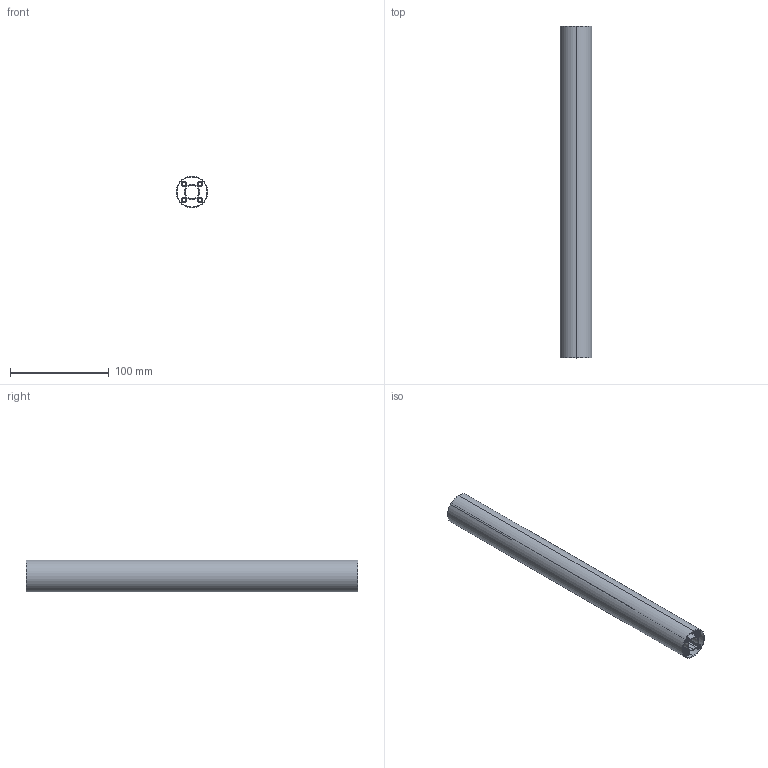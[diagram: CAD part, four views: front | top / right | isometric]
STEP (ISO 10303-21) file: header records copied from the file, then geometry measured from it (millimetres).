
FILE_DESCRIPTION (( 'STEP AP203' ), '1' );
FILE_NAME ('4103-0032-0336.STEP', '2022-09-13T20:51:31', ( '' ), ( '' ), 'SwSTEP 2.0', 'SolidWorks 2016', '' );
FILE_SCHEMA (( 'CONFIG_CONTROL_DESIGN' ));
Length unit declared in the file: millimetre
Products named in the file (1): 4103-0032-0336
Bounding box: 31.95 x 336 x 31.95 mm (x, y, z)
Volume: 56729.8 mm3; surface area: 133796.6 mm2
Topology: 1 solids, 1 shells, 781 faces, 2333 edges, 1554 vertices
Faces by surface type: cylinder 711, plane 34, cone 20, bspline 16
Entity records: 50002 total; most frequent: CARTESIAN_POINT 32717, ORIENTED_EDGE 4666, DIRECTION 2715, EDGE_CURVE 2333, VERTEX_POINT 1554, AXIS2_PLACEMENT_3D 960, EDGE_LOOP 799, LINE 795
